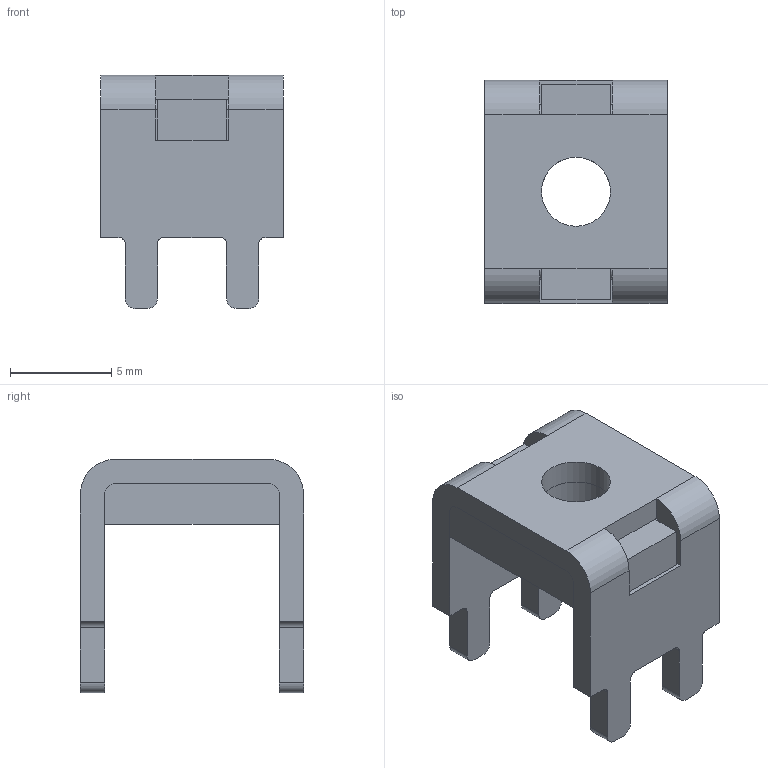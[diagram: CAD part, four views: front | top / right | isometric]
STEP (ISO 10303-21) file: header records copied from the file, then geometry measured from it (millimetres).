
FILE_DESCRIPTION(/* description */ (''),/* implementation_level */ '2;1');
FILE_NAME(/* name */ '9x11料厚1.2铁板中心距5.0高8.0mm脚长3.5mm.stp',/* time_stamp */ '2025-06-26T21:22:37+08:00',/* author */ (''),/* organization */ (''),/* preprocessor_version */ 'ST-DEVELOPER v16',/* originating_system */ 'SIEMENS PLM Software NX 10.0',/* authorisation */ '');
FILE_SCHEMA (('AP203_CONFIGURATION_CONTROLLED_3D_DESIGN_OF_MECHANICAL_PARTS_AND_ASSEMBLIES_MIM_LF { 1 0 10303 403 2 1 2}'));
Length unit declared in the file: millimetre
Products named in the file (1): Admi2ABC7C88fxng
Bounding box: 9 x 11 x 11.5 mm (x, y, z)
Volume: 392.9 mm3; surface area: 807.3 mm2
Topology: 2 solids, 2 shells, 78 faces, 227 edges, 149 vertices
Faces by surface type: plane 48, cylinder 30
Full cylindrical faces by diameter (mm): 3.4 x2
Entity records: 2662 total; most frequent: CARTESIAN_POINT 451, ORIENTED_EDGE 448, DIRECTION 442, EDGE_CURVE 224, LINE 164, VECTOR 164, VERTEX_POINT 148, AXIS2_PLACEMENT_3D 139
